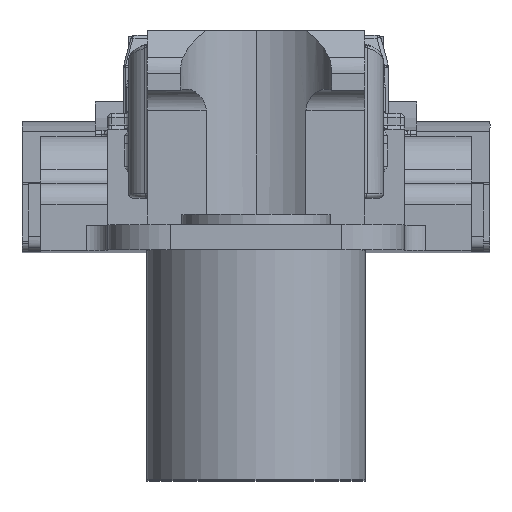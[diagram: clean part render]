
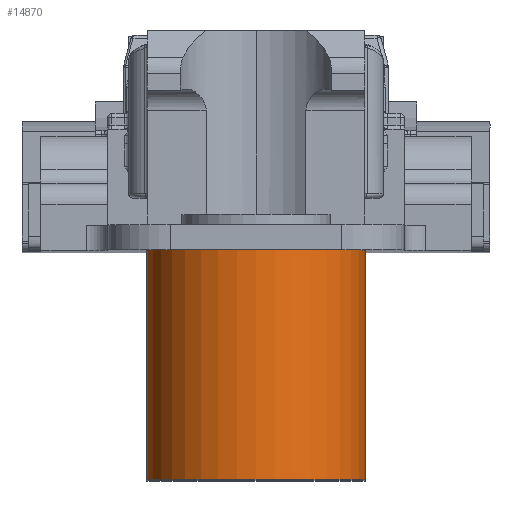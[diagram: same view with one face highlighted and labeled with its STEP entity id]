
A CAD part, top view. The second image highlights one B-rep face of the part: STEP entity #14870.
In plain terms, the highlighted cylindrical face has radius 5.25 mm (diameter 10.5 mm), a partial arc.
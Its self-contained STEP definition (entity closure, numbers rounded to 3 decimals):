
#339 = VECTOR ( 'NONE', #13331, 1000. ) ;
#713 = VERTEX_POINT ( 'NONE', #14371 ) ;
#835 = ORIENTED_EDGE ( 'NONE', *, *, #7870, .F. ) ;
#965 = CARTESIAN_POINT ( 'NONE',  ( 5.25, -11., 45.994 ) ) ;
#1505 = VERTEX_POINT ( 'NONE', #5664 ) ;
#2125 = CIRCLE ( 'NONE', #11176, 5.25 ) ;
#2952 = CARTESIAN_POINT ( 'NONE',  ( 0., -11., 45.994 ) ) ;
#3049 = CARTESIAN_POINT ( 'NONE',  ( -5.25, -11., 45.994 ) ) ;
#3537 = LINE ( 'NONE', #965, #339 ) ;
#4241 = FACE_OUTER_BOUND ( 'NONE', #17314, .T. ) ;
#4624 = DIRECTION ( 'NONE',  ( 0., -1., 0. ) ) ;
#4779 = LINE ( 'NONE', #3049, #7982 ) ;
#4900 = CARTESIAN_POINT ( 'NONE',  ( 0., 0., 45.994 ) ) ;
#5370 = AXIS2_PLACEMENT_3D ( 'NONE', #2952, #8465, #12748 ) ;
#5393 = CARTESIAN_POINT ( 'NONE',  ( 0., -11., 45.994 ) ) ;
#5664 = CARTESIAN_POINT ( 'NONE',  ( 5.25, -11., 45.994 ) ) ;
#5879 = DIRECTION ( 'NONE',  ( 0., 1., 0. ) ) ;
#7448 = VERTEX_POINT ( 'NONE', #14839 ) ;
#7870 = EDGE_CURVE ( 'NONE', #1505, #7448, #2125, .T. ) ;
#7982 = VECTOR ( 'NONE', #5879, 1000. ) ;
#8465 = DIRECTION ( 'NONE',  ( 0., 1., 0. ) ) ;
#9213 = DIRECTION ( 'NONE',  ( 1., 0., 0. ) ) ;
#9679 = CARTESIAN_POINT ( 'NONE',  ( -5.25, 0., 45.994 ) ) ;
#11176 = AXIS2_PLACEMENT_3D ( 'NONE', #5393, #11462, #14311 ) ;
#11325 = ORIENTED_EDGE ( 'NONE', *, *, #17424, .T. ) ;
#11462 = DIRECTION ( 'NONE',  ( 0., -1., 0. ) ) ;
#12748 = DIRECTION ( 'NONE',  ( -1., 0., 0. ) ) ;
#12976 = AXIS2_PLACEMENT_3D ( 'NONE', #4900, #4624, #9213 ) ;
#13331 = DIRECTION ( 'NONE',  ( 0., 1., 0. ) ) ;
#13426 = EDGE_CURVE ( 'NONE', #1505, #713, #3537, .T. ) ;
#13526 = VERTEX_POINT ( 'NONE', #9679 ) ;
#13541 = ORIENTED_EDGE ( 'NONE', *, *, #13426, .T. ) ;
#14311 = DIRECTION ( 'NONE',  ( 1., 0., 0. ) ) ;
#14371 = CARTESIAN_POINT ( 'NONE',  ( 5.25, 0., 45.994 ) ) ;
#14839 = CARTESIAN_POINT ( 'NONE',  ( -5.25, -11., 45.994 ) ) ;
#14870 = ADVANCED_FACE ( 'NONE', ( #4241 ), #15577, .T. ) ;
#15030 = CIRCLE ( 'NONE', #12976, 5.25 ) ;
#15577 = CYLINDRICAL_SURFACE ( 'NONE', #5370, 5.25 ) ;
#16154 = EDGE_CURVE ( 'NONE', #7448, #13526, #4779, .T. ) ;
#17314 = EDGE_LOOP ( 'NONE', ( #835, #13541, #11325, #17659 ) ) ;
#17424 = EDGE_CURVE ( 'NONE', #713, #13526, #15030, .T. ) ;
#17659 = ORIENTED_EDGE ( 'NONE', *, *, #16154, .F. ) ;
